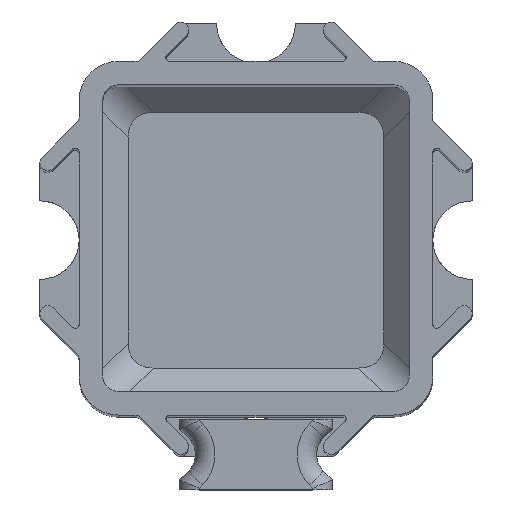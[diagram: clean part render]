
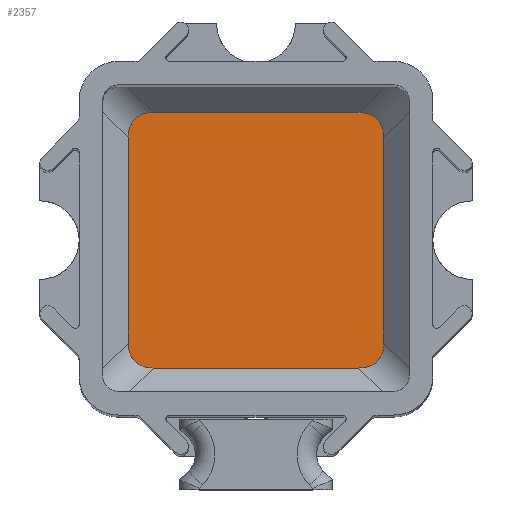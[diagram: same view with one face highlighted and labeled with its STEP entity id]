
A CAD part, top view. The second image highlights one B-rep face of the part: STEP entity #2357.
In plain terms, the highlighted planar face has unit normal (0, 0, 1).
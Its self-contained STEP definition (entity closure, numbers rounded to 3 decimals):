
#168=LINE('',#3828,#372);
#174=LINE('',#3861,#378);
#185=LINE('',#3924,#389);
#187=LINE('',#3927,#391);
#372=VECTOR('',#3107,10.);
#378=VECTOR('',#3127,10.);
#389=VECTOR('',#3164,10.);
#391=VECTOR('',#3168,10.);
#484=PLANE('',#2592);
#579=FACE_OUTER_BOUND('',#703,.T.);
#703=EDGE_LOOP('',(#1882,#1883,#1884,#1885,#1886,#1887,#1888,#1889));
#770=ELLIPSE('',#2566,3.118,1.8);
#774=ELLIPSE('',#2574,3.118,1.8);
#777=ELLIPSE('',#2582,3.118,1.8);
#779=ELLIPSE('',#2586,3.118,1.8);
#1018=VERTEX_POINT('',#3798);
#1019=VERTEX_POINT('',#3799);
#1024=VERTEX_POINT('',#3827);
#1027=VERTEX_POINT('',#3837);
#1030=VERTEX_POINT('',#3860);
#1034=VERTEX_POINT('',#3887);
#1038=VERTEX_POINT('',#3912);
#1039=VERTEX_POINT('',#3913);
#1300=EDGE_CURVE('',#1018,#1019,#770,.T.);
#1308=EDGE_CURVE('',#1024,#1018,#168,.T.);
#1313=EDGE_CURVE('',#1027,#1024,#774,.T.);
#1318=EDGE_CURVE('',#1030,#1027,#174,.T.);
#1325=EDGE_CURVE('',#1034,#1030,#777,.T.);
#1331=EDGE_CURVE('',#1038,#1039,#779,.T.);
#1337=EDGE_CURVE('',#1039,#1034,#185,.T.);
#1339=EDGE_CURVE('',#1019,#1038,#187,.T.);
#1882=ORIENTED_EDGE('',*,*,#1300,.T.);
#1883=ORIENTED_EDGE('',*,*,#1339,.T.);
#1884=ORIENTED_EDGE('',*,*,#1331,.T.);
#1885=ORIENTED_EDGE('',*,*,#1337,.T.);
#1886=ORIENTED_EDGE('',*,*,#1325,.T.);
#1887=ORIENTED_EDGE('',*,*,#1318,.T.);
#1888=ORIENTED_EDGE('',*,*,#1313,.T.);
#1889=ORIENTED_EDGE('',*,*,#1308,.T.);
#2357=ADVANCED_FACE('',(#579),#484,.F.);
#2566=AXIS2_PLACEMENT_3D('',#3800,#3093,#3094);
#2574=AXIS2_PLACEMENT_3D('',#3838,#3117,#3118);
#2582=AXIS2_PLACEMENT_3D('',#3888,#3140,#3141);
#2586=AXIS2_PLACEMENT_3D('',#3914,#3151,#3152);
#2592=AXIS2_PLACEMENT_3D('',#3928,#3169,#3170);
#3093=DIRECTION('center_axis',(0.,0.,1.));
#3094=DIRECTION('ref_axis',(-0.707,0.707,0.));
#3107=DIRECTION('',(-1.,0.,0.));
#3117=DIRECTION('center_axis',(0.,0.,1.));
#3118=DIRECTION('ref_axis',(0.707,0.707,0.));
#3127=DIRECTION('',(0.,1.,0.));
#3140=DIRECTION('center_axis',(0.,0.,1.));
#3141=DIRECTION('ref_axis',(0.707,-0.707,0.));
#3151=DIRECTION('center_axis',(0.,0.,1.));
#3152=DIRECTION('ref_axis',(-0.707,-0.707,0.));
#3164=DIRECTION('',(1.,0.,0.));
#3168=DIRECTION('',(0.,-1.,0.));
#3169=DIRECTION('center_axis',(0.,0.,-1.));
#3170=DIRECTION('ref_axis',(-1.,0.,0.));
#3798=CARTESIAN_POINT('',(5.77,17.503,-60.));
#3799=CARTESIAN_POINT('',(4.497,16.23,-60.));
#3800=CARTESIAN_POINT('Origin',(7.043,14.957,-60.));
#3827=CARTESIAN_POINT('',(16.23,17.503,-60.));
#3828=CARTESIAN_POINT('',(8.75,17.503,-60.));
#3837=CARTESIAN_POINT('',(17.503,16.23,-60.));
#3838=CARTESIAN_POINT('Origin',(14.957,14.957,-60.));
#3860=CARTESIAN_POINT('',(17.503,5.77,-60.));
#3861=CARTESIAN_POINT('',(17.503,13.25,-60.));
#3887=CARTESIAN_POINT('',(16.23,4.497,-60.));
#3888=CARTESIAN_POINT('Origin',(14.957,7.043,-60.));
#3912=CARTESIAN_POINT('',(4.497,5.77,-60.));
#3913=CARTESIAN_POINT('',(5.77,4.497,-60.));
#3914=CARTESIAN_POINT('Origin',(7.043,7.043,-60.));
#3924=CARTESIAN_POINT('',(13.25,4.497,-60.));
#3927=CARTESIAN_POINT('',(4.497,8.75,-60.));
#3928=CARTESIAN_POINT('Origin',(11.,11.,-60.));
